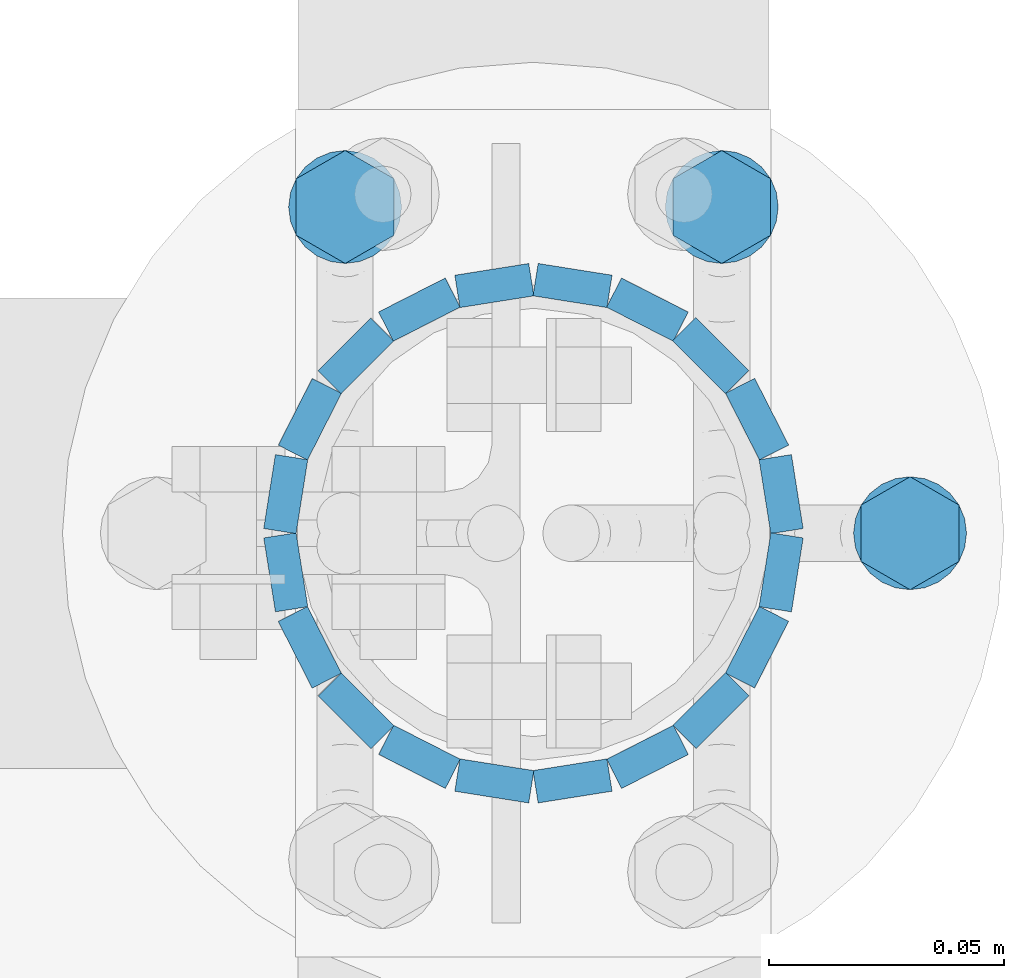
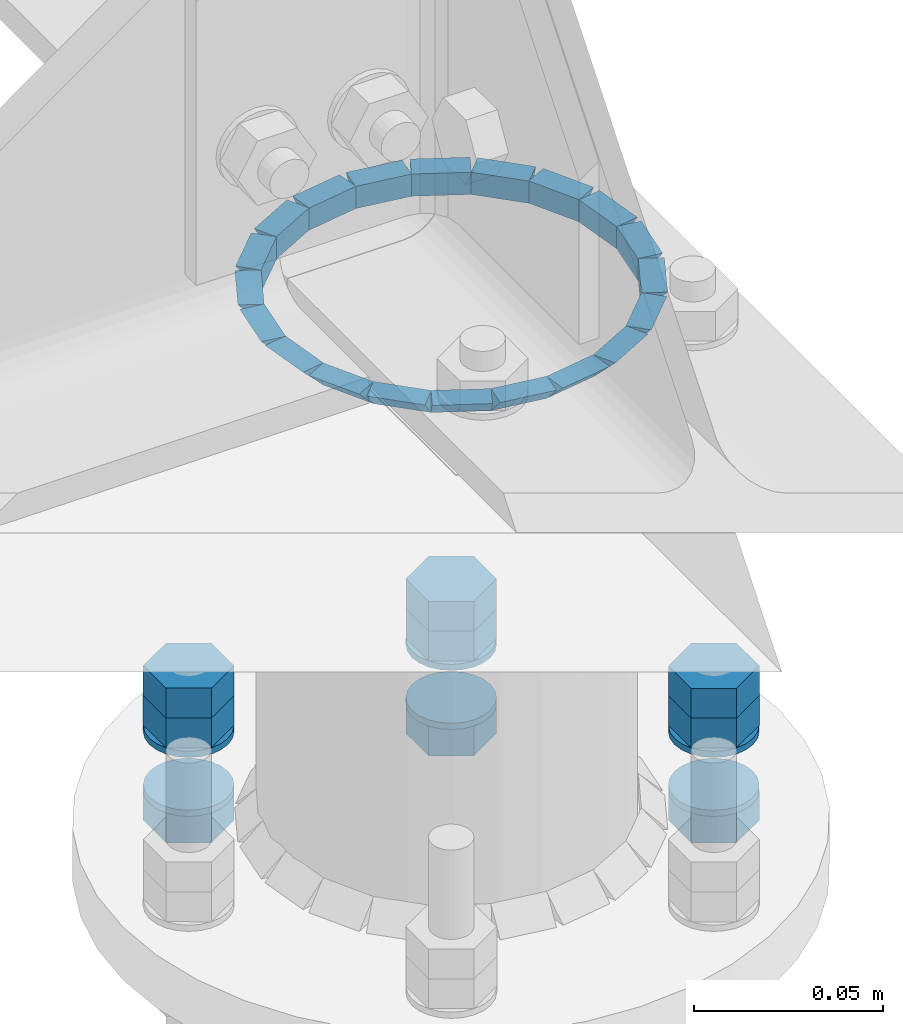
# One storey, part 69 of 84: 40 fasteners, 15 mechanical fasteners.
"""IFC4 building model written with IfcOpenShell, lengths in metres."""

from ifc_helpers import new_model, si_unit, frame, origin_with_axes, place, context, project, spatial, polyline, outline, extrude, type_object, element, save


model = new_model("IFC4")

# Units and contexts
model_context = context("Model", 3, precision=1e-05, world=origin_with_axes())
ifc_project = project(units=[si_unit("LENGTHUNIT", "METRE"), si_unit("AREAUNIT", "SQUARE_METRE"), si_unit("VOLUMEUNIT", "CUBIC_METRE"), si_unit("MASSUNIT", "GRAM", prefix="KILO"), si_unit("TIMEUNIT", "SECOND"), si_unit("PLANEANGLEUNIT", "RADIAN"), si_unit("SOLIDANGLEUNIT", "STERADIAN"), si_unit("THERMODYNAMICTEMPERATUREUNIT", "DEGREE_CELSIUS")], contexts=[model_context])

# Site, building, storey
placement_1 = place(None, origin_with_axes())
site = spatial("IfcSite", under=ifc_project, at=placement_1, Name="Italia", CompositionType="ELEMENT")
building = spatial("IfcBuilding", under=site, at=placement_1, Name="Tettoia", CompositionType="ELEMENT")
storey_placement = place(None, frame((0.0, 0.0, 4.199999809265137), z_axis=(0.0, 0.0, 1.0), x_axis=(1.0, 0.0, 0.0)))
storey = spatial("IfcBuildingStorey", under=building, at=storey_placement, Name="Storey 1", CompositionType="ELEMENT", Elevation=4.199999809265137)

# Mechanical fasteners
mechanical_fastener_type_1 = type_object("IfcMechanicalFastenerType", Name="Collegamento -013_0113", PredefinedType="BOLT")
placement_2 = place(placement_1, origin_with_axes())
mechanical_fastener_1_placement = place(placement_2, origin_with_axes())
element("IfcMechanicalFastener", 1, at=mechanical_fastener_1_placement, inside=storey, type_object=mechanical_fastener_type_1, Name="Collegamento -013_0113", NominalDiameter=0.0119991, context=model_context, shape_type="SweptSolid", body=[
    extrude(outline(polyline([(0.0, 0.0), (-0.0119991, 0.0), (-0.0179996, 0.0103922), (-0.0119991, 0.0207844), (0.0, 0.0207844), (0.00600052, 0.0103922), (0.0, 0.0)])), frame((11.3804, 13.956, 4.019), z_axis=(0.0, 0.0, 1.0), x_axis=(0.0, 1.0, 0.0)), (0.0, 0.0, 1.0), 0.00960016),
])
mechanical_fastener_type_2 = type_object("IfcMechanicalFastenerType", Name="Collegamento -013_0113", PredefinedType="BOLT")
mechanical_fastener_2_placement = place(placement_2, origin_with_axes())
element("IfcMechanicalFastener", 2, at=mechanical_fastener_2_placement, inside=storey, type_object=mechanical_fastener_type_2, Name="Collegamento -013_0113", NominalDiameter=0.0119991, context=model_context, shape_type="SweptSolid", body=[
    extrude(outline(polyline([(0.0, 0.0), (-0.0119991, 0.0), (-0.0179996, 0.0103922), (-0.0119991, 0.0207844), (0.0, 0.0207844), (0.00600052, 0.0103922), (0.0, 0.0)])), frame((11.3804, 13.956, 4.0286), z_axis=(0.0, 0.0, 1.0), x_axis=(0.0, 1.0, 0.0)), (0.0, 0.0, 1.0), 0.00959969),
])
mechanical_fastener_type_3 = type_object("IfcMechanicalFastenerType", Name="Collegamento -013_0113", PredefinedType="BOLT")
mechanical_fastener_3_placement = place(placement_2, origin_with_axes())
element("IfcMechanicalFastener", 3, at=mechanical_fastener_3_placement, inside=storey, type_object=mechanical_fastener_type_3, Name="Collegamento -013_0113", NominalDiameter=0.0119991, context=model_context, shape_type="SweptSolid", body=[
    extrude(outline(polyline([(0.0, 0.0), (-0.0119991, 0.0), (-0.0179996, 0.0103922), (-0.0119991, 0.0207844), (0.0, 0.0207844), (0.00600052, 0.0103922), (0.0, 0.0)])), frame((11.3804, 13.956, 3.9884), z_axis=(0.0, 0.0, 1.0), x_axis=(0.0, 1.0, 0.0)), (0.0, 0.0, 1.0), 0.00959992),
])
mechanical_fastener_type_4 = type_object("IfcMechanicalFastenerType", Name="Collegamento -013_0113", PredefinedType="BOLT")
mechanical_fastener_4_placement = place(placement_2, origin_with_axes())
element("IfcMechanicalFastener", 4, at=mechanical_fastener_4_placement, inside=storey, type_object=mechanical_fastener_type_4, Name="Collegamento -013_0113", NominalDiameter=0.024, context=model_context, shape_type="SweptSolid", body=[
    extrude(outline(polyline([(0.0, 0.0), (-0.000409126, -0.00310612), (-0.00160789, -0.00599957), (-0.00351524, -0.00848484), (-0.00600052, -0.0103922), (-0.00889397, -0.011591), (-0.0120001, -0.0120001), (-0.0151062, -0.011591), (-0.0179996, -0.0103922), (-0.0204849, -0.00848484), (-0.0223923, -0.00599957), (-0.023591, -0.00310612), (-0.0240002, 0.0), (-0.023591, 0.00310612), (-0.0223923, 0.00599957), (-0.0204849, 0.00848484), (-0.0179996, 0.0103922), (-0.0151062, 0.011591), (-0.0120001, 0.0120001), (-0.00889397, 0.011591), (-0.00600052, 0.0103922), (-0.00351524, 0.00848484), (-0.00160789, 0.00599957), (-0.000409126, 0.00310612), (0.0, 0.0)])), frame((11.37, 13.962, 4.017), z_axis=(0.0, 0.0, 1.0), x_axis=(0.0, 1.0, 0.0)), (0.0, 0.0, 1.0), 0.00199986),
])
mechanical_fastener_type_5 = type_object("IfcMechanicalFastenerType", Name="Collegamento -013_0113", PredefinedType="BOLT")
mechanical_fastener_5_placement = place(placement_2, origin_with_axes())
element("IfcMechanicalFastener", 5, at=mechanical_fastener_5_placement, inside=storey, type_object=mechanical_fastener_type_5, Name="Collegamento -013_0113", NominalDiameter=0.024, context=model_context, shape_type="SweptSolid", body=[
    extrude(outline(polyline([(0.0, 0.0), (-0.000409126, -0.00310612), (-0.00160789, -0.00599957), (-0.00351524, -0.00848484), (-0.00600052, -0.0103922), (-0.00889397, -0.011591), (-0.0120001, -0.0120001), (-0.0151062, -0.011591), (-0.0179996, -0.0103922), (-0.0204849, -0.00848484), (-0.0223923, -0.00599957), (-0.023591, -0.00310612), (-0.0240002, 0.0), (-0.023591, 0.00310612), (-0.0223923, 0.00599957), (-0.0204849, 0.00848484), (-0.0179996, 0.0103922), (-0.0151062, 0.011591), (-0.0120001, 0.0120001), (-0.00889397, 0.011591), (-0.00600052, 0.0103922), (-0.00351524, 0.00848484), (-0.00160789, 0.00599957), (-0.000409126, 0.00310612), (0.0, 0.0)])), frame((11.37, 13.962, 3.998), z_axis=(0.0, 0.0, 1.0), x_axis=(0.0, 1.0, 0.0)), (0.0, 0.0, 1.0), 0.00200009),
])
mechanical_fastener_type_6 = type_object("IfcMechanicalFastenerType", Name="Collegamento -013_0113", PredefinedType="BOLT")
mechanical_fastener_6_placement = place(placement_2, origin_with_axes())
element("IfcMechanicalFastener", 6, at=mechanical_fastener_6_placement, inside=storey, type_object=mechanical_fastener_type_6, Name="Collegamento -013_0113", NominalDiameter=0.0119997, context=model_context, shape_type="SweptSolid", body=[
    extrude(outline(polyline([(0.0, 0.0), (-0.0120001, 0.0), (-0.0179996, 0.0103922), (-0.0120001, 0.0207844), (0.0, 0.0207844), (0.00599957, 0.0103922), (0.0, 0.0)])), frame((11.3404, 14.0253, 4.019), z_axis=(0.0, 0.0, 1.0), x_axis=(0.0, 1.0, 0.0)), (0.0, 0.0, 1.0), 0.00960016),
])
mechanical_fastener_type_7 = type_object("IfcMechanicalFastenerType", Name="Collegamento -013_0113", PredefinedType="BOLT")
mechanical_fastener_7_placement = place(placement_2, origin_with_axes())
element("IfcMechanicalFastener", 7, at=mechanical_fastener_7_placement, inside=storey, type_object=mechanical_fastener_type_7, Name="Collegamento -013_0113", NominalDiameter=0.0119997, context=model_context, shape_type="SweptSolid", body=[
    extrude(outline(polyline([(0.0, 0.0), (-0.0120001, 0.0), (-0.0179996, 0.0103922), (-0.0120001, 0.0207844), (0.0, 0.0207844), (0.00599957, 0.0103922), (0.0, 0.0)])), frame((11.3404, 14.0253, 4.0286), z_axis=(0.0, 0.0, 1.0), x_axis=(0.0, 1.0, 0.0)), (0.0, 0.0, 1.0), 0.00959969),
])
mechanical_fastener_type_8 = type_object("IfcMechanicalFastenerType", Name="Collegamento -013_0113", PredefinedType="BOLT")
mechanical_fastener_8_placement = place(placement_2, origin_with_axes())
element("IfcMechanicalFastener", 8, at=mechanical_fastener_8_placement, inside=storey, type_object=mechanical_fastener_type_8, Name="Collegamento -013_0113", NominalDiameter=0.0119997, context=model_context, shape_type="SweptSolid", body=[
    extrude(outline(polyline([(0.0, 0.0), (-0.0120001, 0.0), (-0.0179996, 0.0103922), (-0.0120001, 0.0207844), (0.0, 0.0207844), (0.00599957, 0.0103922), (0.0, 0.0)])), frame((11.3404, 14.0253, 3.9884), z_axis=(0.0, 0.0, 1.0), x_axis=(0.0, 1.0, 0.0)), (0.0, 0.0, 1.0), 0.00959992),
])
mechanical_fastener_type_9 = type_object("IfcMechanicalFastenerType", Name="Collegamento -013_0113", PredefinedType="BOLT")
mechanical_fastener_9_placement = place(placement_2, origin_with_axes())
element("IfcMechanicalFastener", 9, at=mechanical_fastener_9_placement, inside=storey, type_object=mechanical_fastener_type_9, Name="Collegamento -013_0113", NominalDiameter=0.024, context=model_context, shape_type="SweptSolid", body=[
    extrude(outline(polyline([(0.0, 0.0), (-0.000409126, -0.00310612), (-0.00160789, -0.00599957), (-0.00351524, -0.00848484), (-0.00600052, -0.0103922), (-0.00889397, -0.011591), (-0.0120001, -0.0120001), (-0.0151062, -0.011591), (-0.0179996, -0.0103922), (-0.0204849, -0.00848484), (-0.0223923, -0.00599957), (-0.023591, -0.00310612), (-0.0240002, 0.0), (-0.023591, 0.00310612), (-0.0223923, 0.00599957), (-0.0204849, 0.00848484), (-0.0179996, 0.0103922), (-0.0151062, 0.011591), (-0.0120001, 0.0120001), (-0.00889397, 0.011591), (-0.00600052, 0.0103922), (-0.00351524, 0.00848484), (-0.00160789, 0.00599957), (-0.000409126, 0.00310612), (0.0, 0.0)])), frame((11.33, 14.0313, 4.017), z_axis=(0.0, 0.0, 1.0), x_axis=(0.0, 1.0, 0.0)), (0.0, 0.0, 1.0), 0.00199986),
])
mechanical_fastener_type_10 = type_object("IfcMechanicalFastenerType", Name="Collegamento -013_0113", PredefinedType="BOLT")
mechanical_fastener_10_placement = place(placement_2, origin_with_axes())
element("IfcMechanicalFastener", 10, at=mechanical_fastener_10_placement, inside=storey, type_object=mechanical_fastener_type_10, Name="Collegamento -013_0113", NominalDiameter=0.024, context=model_context, shape_type="SweptSolid", body=[
    extrude(outline(polyline([(0.0, 0.0), (-0.000409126, -0.00310612), (-0.00160789, -0.00599957), (-0.00351524, -0.00848484), (-0.00600052, -0.0103922), (-0.00889397, -0.011591), (-0.0120001, -0.0120001), (-0.0151062, -0.011591), (-0.0179996, -0.0103922), (-0.0204849, -0.00848484), (-0.0223923, -0.00599957), (-0.023591, -0.00310612), (-0.0240002, 0.0), (-0.023591, 0.00310612), (-0.0223923, 0.00599957), (-0.0204849, 0.00848484), (-0.0179996, 0.0103922), (-0.0151062, 0.011591), (-0.0120001, 0.0120001), (-0.00889397, 0.011591), (-0.00600052, 0.0103922), (-0.00351524, 0.00848484), (-0.00160789, 0.00599957), (-0.000409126, 0.00310612), (0.0, 0.0)])), frame((11.33, 14.0313, 3.998), z_axis=(0.0, 0.0, 1.0), x_axis=(0.0, 1.0, 0.0)), (0.0, 0.0, 1.0), 0.00200009),
])
mechanical_fastener_type_11 = type_object("IfcMechanicalFastenerType", Name="Collegamento -013_0113", PredefinedType="BOLT")
mechanical_fastener_11_placement = place(placement_2, origin_with_axes())
element("IfcMechanicalFastener", 11, at=mechanical_fastener_11_placement, inside=storey, type_object=mechanical_fastener_type_11, Name="Collegamento -013_0113", NominalDiameter=0.0119997, context=model_context, shape_type="SweptSolid", body=[
    extrude(outline(polyline([(0.0, 0.0), (-0.0120001, 0.0), (-0.0179996, 0.0103922), (-0.0120001, 0.0207844), (0.0, 0.0207844), (0.00599957, 0.0103922), (0.0, 0.0)])), frame((11.2604, 14.0253, 4.019), z_axis=(0.0, 0.0, 1.0), x_axis=(0.0, 1.0, 0.0)), (0.0, 0.0, 1.0), 0.00960016),
])
mechanical_fastener_type_12 = type_object("IfcMechanicalFastenerType", Name="Collegamento -013_0113", PredefinedType="BOLT")
mechanical_fastener_12_placement = place(placement_2, origin_with_axes())
element("IfcMechanicalFastener", 12, at=mechanical_fastener_12_placement, inside=storey, type_object=mechanical_fastener_type_12, Name="Collegamento -013_0113", NominalDiameter=0.0119997, context=model_context, shape_type="SweptSolid", body=[
    extrude(outline(polyline([(0.0, 0.0), (-0.0120001, 0.0), (-0.0179996, 0.0103922), (-0.0120001, 0.0207844), (0.0, 0.0207844), (0.00599957, 0.0103922), (0.0, 0.0)])), frame((11.2604, 14.0253, 4.0286), z_axis=(0.0, 0.0, 1.0), x_axis=(0.0, 1.0, 0.0)), (0.0, 0.0, 1.0), 0.00959969),
])
mechanical_fastener_type_13 = type_object("IfcMechanicalFastenerType", Name="Collegamento -013_0113", PredefinedType="BOLT")
mechanical_fastener_13_placement = place(placement_2, origin_with_axes())
element("IfcMechanicalFastener", 13, at=mechanical_fastener_13_placement, inside=storey, type_object=mechanical_fastener_type_13, Name="Collegamento -013_0113", NominalDiameter=0.0119997, context=model_context, shape_type="SweptSolid", body=[
    extrude(outline(polyline([(0.0, 0.0), (-0.0120001, 0.0), (-0.0179996, 0.0103922), (-0.0120001, 0.0207844), (0.0, 0.0207844), (0.00599957, 0.0103922), (0.0, 0.0)])), frame((11.2604, 14.0253, 3.9884), z_axis=(0.0, 0.0, 1.0), x_axis=(0.0, 1.0, 0.0)), (0.0, 0.0, 1.0), 0.00959992),
])
mechanical_fastener_type_14 = type_object("IfcMechanicalFastenerType", Name="Collegamento -013_0113", PredefinedType="BOLT")
mechanical_fastener_14_placement = place(placement_2, origin_with_axes())
element("IfcMechanicalFastener", 14, at=mechanical_fastener_14_placement, inside=storey, type_object=mechanical_fastener_type_14, Name="Collegamento -013_0113", NominalDiameter=0.024, context=model_context, shape_type="SweptSolid", body=[
    extrude(outline(polyline([(0.0, 0.0), (-0.000409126, -0.00310612), (-0.00160789, -0.00599957), (-0.00351524, -0.00848484), (-0.00600052, -0.0103922), (-0.00889397, -0.011591), (-0.0120001, -0.0120001), (-0.0151062, -0.011591), (-0.0179996, -0.0103922), (-0.0204849, -0.00848484), (-0.0223923, -0.00599957), (-0.023591, -0.00310612), (-0.0240002, 0.0), (-0.023591, 0.00310612), (-0.0223923, 0.00599957), (-0.0204849, 0.00848484), (-0.0179996, 0.0103922), (-0.0151062, 0.011591), (-0.0120001, 0.0120001), (-0.00889397, 0.011591), (-0.00600052, 0.0103922), (-0.00351524, 0.00848484), (-0.00160789, 0.00599957), (-0.000409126, 0.00310612), (0.0, 0.0)])), frame((11.25, 14.0313, 4.017), z_axis=(0.0, 0.0, 1.0), x_axis=(0.0, 1.0, 0.0)), (0.0, 0.0, 1.0), 0.00199986),
])
mechanical_fastener_type_15 = type_object("IfcMechanicalFastenerType", Name="Collegamento -013_0113", PredefinedType="BOLT")
mechanical_fastener_15_placement = place(placement_2, origin_with_axes())
element("IfcMechanicalFastener", 15, at=mechanical_fastener_15_placement, inside=storey, type_object=mechanical_fastener_type_15, Name="Collegamento -013_0113", NominalDiameter=0.024, context=model_context, shape_type="SweptSolid", body=[
    extrude(outline(polyline([(0.0, 0.0), (-0.000409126, -0.00310612), (-0.00160789, -0.00599957), (-0.00351524, -0.00848484), (-0.00600052, -0.0103922), (-0.00889397, -0.011591), (-0.0120001, -0.0120001), (-0.0151062, -0.011591), (-0.0179996, -0.0103922), (-0.0204849, -0.00848484), (-0.0223923, -0.00599957), (-0.023591, -0.00310612), (-0.0240002, 0.0), (-0.023591, 0.00310612), (-0.0223923, 0.00599957), (-0.0204849, 0.00848484), (-0.0179996, 0.0103922), (-0.0151062, 0.011591), (-0.0120001, 0.0120001), (-0.00889397, 0.011591), (-0.00600052, 0.0103922), (-0.00351524, 0.00848484), (-0.00160789, 0.00599957), (-0.000409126, 0.00310612), (0.0, 0.0)])), frame((11.25, 14.0313, 3.998), z_axis=(0.0, 0.0, 1.0), x_axis=(0.0, 1.0, 0.0)), (0.0, 0.0, 1.0), 0.00200009),
])

# Fasteners
fastener_type_1 = type_object("IfcFastenerType", Name="Collegamento 0113_-013", PredefinedType="WELD")
fastener_1_placement = place(placement_2, origin_with_axes())
element("IfcFastener", 16, at=fastener_1_placement, inside=storey, type_object=fastener_type_1, Name="Collegamento 0113_-013", context=model_context, shape_type="SweptSolid", body=[
    extrude(outline(polyline([(0.0, 0.0), (-0.00695801, -0.00717306), (-0.00695801, 0.0), (0.0, 0.0)])), frame((11.291, 14.0073, 4.19005), z_axis=(0.987678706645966, -0.156495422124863, 0.0), x_axis=(0.156495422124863, 0.987678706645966, 0.0)), (0.0, 0.0, 1.0), 0.0158991),
])
fastener_type_2 = type_object("IfcFastenerType", Name="Collegamento 0113_-013", PredefinedType="WELD")
fastener_2_placement = place(placement_2, origin_with_axes())
element("IfcFastener", 17, at=fastener_2_placement, inside=storey, type_object=fastener_type_2, Name="Collegamento 0113_-013", context=model_context, shape_type="SweptSolid", body=[
    extrude(outline(polyline([(0.0, 0.0), (-0.00695801, -0.00717306), (-0.00695801, 0.0), (0.0, 0.0)])), frame((11.3087, 14.0042, 4.19005), z_axis=(0.891030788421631, -0.453942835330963, 0.0), x_axis=(0.453942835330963, 0.891030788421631, 0.0)), (0.0, 0.0, 1.0), 0.0158994),
])
fastener_type_3 = type_object("IfcFastenerType", Name="Collegamento 0113_-013", PredefinedType="WELD")
fastener_3_placement = place(placement_2, origin_with_axes())
element("IfcFastener", 18, at=fastener_3_placement, inside=storey, type_object=fastener_type_3, Name="Collegamento 0113_-013", context=model_context, shape_type="SweptSolid", body=[
    extrude(outline(polyline([(0.0, 0.0), (-0.00695801, -0.00717306), (-0.00695801, 0.0), (0.0, 0.0)])), frame((11.3245, 13.9958, 4.19005), z_axis=(0.70710676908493, -0.70710676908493, 0.0), x_axis=(0.70710676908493, 0.70710676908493, 0.0)), (0.0, 0.0, 1.0), 0.0158998),
])
fastener_type_4 = type_object("IfcFastenerType", Name="Collegamento 0113_-013", PredefinedType="WELD")
fastener_4_placement = place(placement_2, origin_with_axes())
element("IfcFastener", 19, at=fastener_4_placement, inside=storey, type_object=fastener_type_4, Name="Collegamento 0113_-013", context=model_context, shape_type="SweptSolid", body=[
    extrude(outline(polyline([(0.0, 0.0), (-0.00695801, -0.00717306), (-0.00695801, 0.0), (0.0, 0.0)])), frame((11.337, 13.9829, 4.19005), z_axis=(0.453942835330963, -0.891030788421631, 0.0), x_axis=(0.891030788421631, 0.453942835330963, 0.0)), (0.0, 0.0, 1.0), 0.0158994),
])
fastener_type_5 = type_object("IfcFastenerType", Name="Collegamento 0113_-013", PredefinedType="WELD")
fastener_5_placement = place(placement_2, origin_with_axes())
element("IfcFastener", 20, at=fastener_5_placement, inside=storey, type_object=fastener_type_5, Name="Collegamento 0113_-013", context=model_context, shape_type="SweptSolid", body=[
    extrude(outline(polyline([(0.0, 0.0), (-0.00695705, -0.00717306), (-0.00695705, 0.0), (0.0, 0.0)])), frame((11.3448, 13.9667, 4.19005), z_axis=(0.156495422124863, -0.987678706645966, 0.0), x_axis=(0.987678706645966, 0.156495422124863, 0.0)), (0.0, 0.0, 1.0), 0.0158991),
])
fastener_type_6 = type_object("IfcFastenerType", Name="Collegamento 0113_-013", PredefinedType="WELD")
fastener_6_placement = place(placement_2, origin_with_axes())
element("IfcFastener", 21, at=fastener_6_placement, inside=storey, type_object=fastener_type_6, Name="Collegamento 0113_-013", context=model_context, shape_type="SweptSolid", body=[
    extrude(outline(polyline([(0.0, 0.0), (-0.00695992, -0.00717306), (-0.00695992, 0.0), (0.0, 0.0)])), frame((11.3473, 13.949, 4.19005), z_axis=(-0.156495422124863, -0.987678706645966, 0.0), x_axis=(0.987678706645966, -0.156495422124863, 0.0)), (0.0, 0.0, 1.0), 0.0158991),
])
fastener_type_7 = type_object("IfcFastenerType", Name="Collegamento 0113_-013", PredefinedType="WELD")
fastener_7_placement = place(placement_2, origin_with_axes())
element("IfcFastener", 22, at=fastener_7_placement, inside=storey, type_object=fastener_type_7, Name="Collegamento 0113_-013", context=model_context, shape_type="SweptSolid", body=[
    extrude(outline(polyline([(0.0, 0.0), (-0.00695896, -0.00717306), (-0.00695896, 0.0), (0.0, 0.0)])), frame((11.3442, 13.9313, 4.19005), z_axis=(-0.453942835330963, -0.891030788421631, 0.0), x_axis=(0.891030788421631, -0.453942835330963, 0.0)), (0.0, 0.0, 1.0), 0.0158994),
])
fastener_type_8 = type_object("IfcFastenerType", Name="Collegamento 0113_-013", PredefinedType="WELD")
fastener_8_placement = place(placement_2, origin_with_axes())
element("IfcFastener", 23, at=fastener_8_placement, inside=storey, type_object=fastener_type_8, Name="Collegamento 0113_-013", context=model_context, shape_type="SweptSolid", body=[
    extrude(outline(polyline([(0.0, 0.0), (-0.00695801, -0.00717306), (-0.00695801, 0.0), (0.0, 0.0)])), frame((11.3358, 13.9155, 4.19005), z_axis=(-0.70710676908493, -0.70710676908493, 0.0), x_axis=(0.70710676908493, -0.70710676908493, 0.0)), (0.0, 0.0, 1.0), 0.0158998),
])
fastener_type_9 = type_object("IfcFastenerType", Name="Collegamento 0113_-013", PredefinedType="WELD")
fastener_9_placement = place(placement_2, origin_with_axes())
element("IfcFastener", 24, at=fastener_9_placement, inside=storey, type_object=fastener_type_9, Name="Collegamento 0113_-013", context=model_context, shape_type="SweptSolid", body=[
    extrude(outline(polyline([(0.0, 0.0), (-0.00695944, -0.00717306), (-0.00695944, 0.0), (0.0, 0.0)])), frame((11.3229, 13.903, 4.19005), z_axis=(-0.891030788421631, -0.453942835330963, 0.0), x_axis=(0.453942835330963, -0.891030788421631, 0.0)), (0.0, 0.0, 1.0), 0.0158994),
])
fastener_type_10 = type_object("IfcFastenerType", Name="Collegamento 0113_-013", PredefinedType="WELD")
fastener_10_placement = place(placement_2, origin_with_axes())
element("IfcFastener", 25, at=fastener_10_placement, inside=storey, type_object=fastener_type_10, Name="Collegamento 0113_-013", context=model_context, shape_type="SweptSolid", body=[
    extrude(outline(polyline([(0.0, 0.0), (-0.00695705, -0.00717306), (-0.00695705, 0.0), (0.0, 0.0)])), frame((11.3067, 13.8952, 4.19005), z_axis=(-0.987678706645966, -0.156495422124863, 0.0), x_axis=(0.156495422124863, -0.987678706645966, 0.0)), (0.0, 0.0, 1.0), 0.0158991),
])
fastener_type_11 = type_object("IfcFastenerType", Name="Collegamento 0113_-013", PredefinedType="WELD")
fastener_11_placement = place(placement_2, origin_with_axes())
element("IfcFastener", 26, at=fastener_11_placement, inside=storey, type_object=fastener_type_11, Name="Collegamento 0113_-013", context=model_context, shape_type="SweptSolid", body=[
    extrude(outline(polyline([(0.0, 0.0), (-0.00695896, -0.00717306), (-0.00695896, 0.0), (0.0, 0.0)])), frame((11.289, 13.8927, 4.19005), z_axis=(-0.987678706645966, 0.156495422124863, 0.0), x_axis=(-0.156495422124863, -0.987678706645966, 0.0)), (0.0, 0.0, 1.0), 0.0158991),
])
fastener_type_12 = type_object("IfcFastenerType", Name="Collegamento 0113_-013", PredefinedType="WELD")
fastener_12_placement = place(placement_2, origin_with_axes())
element("IfcFastener", 27, at=fastener_12_placement, inside=storey, type_object=fastener_type_12, Name="Collegamento 0113_-013", context=model_context, shape_type="SweptSolid", body=[
    extrude(outline(polyline([(0.0, 0.0), (-0.00695801, -0.00717306), (-0.00695801, 0.0), (0.0, 0.0)])), frame((11.2713, 13.8958, 4.19005), z_axis=(-0.891030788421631, 0.453942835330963, 0.0), x_axis=(-0.453942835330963, -0.891030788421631, 0.0)), (0.0, 0.0, 1.0), 0.0158994),
])
fastener_type_13 = type_object("IfcFastenerType", Name="Collegamento 0113_-013", PredefinedType="WELD")
fastener_13_placement = place(placement_2, origin_with_axes())
element("IfcFastener", 28, at=fastener_13_placement, inside=storey, type_object=fastener_type_13, Name="Collegamento 0113_-013", context=model_context, shape_type="SweptSolid", body=[
    extrude(outline(polyline([(0.0, 0.0), (-0.00695801, -0.00717306), (-0.00695801, 0.0), (0.0, 0.0)])), frame((11.2555, 13.9042, 4.19005), z_axis=(-0.70710676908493, 0.70710676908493, 0.0), x_axis=(-0.70710676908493, -0.70710676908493, 0.0)), (0.0, 0.0, 1.0), 0.0158998),
])
fastener_type_14 = type_object("IfcFastenerType", Name="Collegamento 0113_-013", PredefinedType="WELD")
fastener_14_placement = place(placement_2, origin_with_axes())
element("IfcFastener", 29, at=fastener_14_placement, inside=storey, type_object=fastener_type_14, Name="Collegamento 0113_-013", context=model_context, shape_type="SweptSolid", body=[
    extrude(outline(polyline([(0.0, 0.0), (-0.00695992, -0.00717306), (-0.00695992, 0.0), (0.0, 0.0)])), frame((11.243, 13.9171, 4.19005), z_axis=(-0.453942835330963, 0.891030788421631, 0.0), x_axis=(-0.891030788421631, -0.453942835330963, 0.0)), (0.0, 0.0, 1.0), 0.0158994),
])
fastener_type_15 = type_object("IfcFastenerType", Name="Collegamento 0113_-013", PredefinedType="WELD")
fastener_15_placement = place(placement_2, origin_with_axes())
element("IfcFastener", 30, at=fastener_15_placement, inside=storey, type_object=fastener_type_15, Name="Collegamento 0113_-013", context=model_context, shape_type="SweptSolid", body=[
    extrude(outline(polyline([(0.0, 0.0), (-0.00695705, -0.00717306), (-0.00695705, 0.0), (0.0, 0.0)])), frame((11.2352, 13.9333, 4.19005), z_axis=(-0.156495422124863, 0.987678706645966, 0.0), x_axis=(-0.987678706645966, -0.156495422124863, 0.0)), (0.0, 0.0, 1.0), 0.0158991),
])
fastener_type_16 = type_object("IfcFastenerType", Name="Collegamento 0113_-013", PredefinedType="WELD")
fastener_16_placement = place(placement_2, origin_with_axes())
element("IfcFastener", 31, at=fastener_16_placement, inside=storey, type_object=fastener_type_16, Name="Collegamento 0113_-013", context=model_context, shape_type="SweptSolid", body=[
    extrude(outline(polyline([(0.0, 0.0), (-0.00695801, -0.00717306), (-0.00695801, 0.0), (0.0, 0.0)])), frame((11.2327, 13.951, 4.19005), z_axis=(0.156495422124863, 0.987678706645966, 0.0), x_axis=(-0.987678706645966, 0.156495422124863, 0.0)), (0.0, 0.0, 1.0), 0.0158991),
])
fastener_type_17 = type_object("IfcFastenerType", Name="Collegamento 0113_-013", PredefinedType="WELD")
fastener_17_placement = place(placement_2, origin_with_axes())
element("IfcFastener", 32, at=fastener_17_placement, inside=storey, type_object=fastener_type_17, Name="Collegamento 0113_-013", context=model_context, shape_type="SweptSolid", body=[
    extrude(outline(polyline([(0.0, 0.0), (-0.00695896, -0.00717306), (-0.00695896, 0.0), (0.0, 0.0)])), frame((11.2358, 13.9687, 4.19005), z_axis=(0.453942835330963, 0.891030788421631, 0.0), x_axis=(-0.891030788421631, 0.453942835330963, 0.0)), (0.0, 0.0, 1.0), 0.0158994),
])
fastener_type_18 = type_object("IfcFastenerType", Name="Collegamento 0113_-013", PredefinedType="WELD")
fastener_18_placement = place(placement_2, origin_with_axes())
element("IfcFastener", 33, at=fastener_18_placement, inside=storey, type_object=fastener_type_18, Name="Collegamento 0113_-013", context=model_context, shape_type="SweptSolid", body=[
    extrude(outline(polyline([(0.0, 0.0), (-0.00695801, -0.00717306), (-0.00695801, 0.0), (0.0, 0.0)])), frame((11.2442, 13.9845, 4.19005), z_axis=(0.70710676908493, 0.70710676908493, 0.0), x_axis=(-0.70710676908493, 0.70710676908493, 0.0)), (0.0, 0.0, 1.0), 0.0158998),
])
fastener_type_19 = type_object("IfcFastenerType", Name="Collegamento 0113_-013", PredefinedType="WELD")
fastener_19_placement = place(placement_2, origin_with_axes())
element("IfcFastener", 34, at=fastener_19_placement, inside=storey, type_object=fastener_type_19, Name="Collegamento 0113_-013", context=model_context, shape_type="SweptSolid", body=[
    extrude(outline(polyline([(0.0, 0.0), (-0.00695848, -0.00717306), (-0.00695848, 0.0), (0.0, 0.0)])), frame((11.2571, 13.997, 4.19005), z_axis=(0.891030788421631, 0.453942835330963, 0.0), x_axis=(-0.453942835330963, 0.891030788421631, 0.0)), (0.0, 0.0, 1.0), 0.0158994),
])
fastener_type_20 = type_object("IfcFastenerType", Name="Collegamento 0113_-013", PredefinedType="WELD")
fastener_20_placement = place(placement_2, origin_with_axes())
element("IfcFastener", 35, at=fastener_20_placement, inside=storey, type_object=fastener_type_20, Name="Collegamento 0113_-013", context=model_context, shape_type="SweptSolid", body=[
    extrude(outline(polyline([(0.0, 0.0), (-0.00695705, -0.00717306), (-0.00695705, 0.0), (0.0, 0.0)])), frame((11.2733, 14.0048, 4.19005), z_axis=(0.987678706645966, 0.156495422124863, 0.0), x_axis=(-0.156495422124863, 0.987678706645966, 0.0)), (0.0, 0.0, 1.0), 0.0158991),
])
fastener_type_21 = type_object("IfcFastenerType", Name="Collegamento 0113_-013", PredefinedType="WELD")
fastener_21_placement = place(placement_2, origin_with_axes())
element("IfcFastener", 36, at=fastener_21_placement, inside=storey, type_object=fastener_type_21, Name="Collegamento 0113_-013", context=model_context, shape_type="SweptSolid", body=[
    extrude(outline(polyline([(0.0, 0.0), (-0.00695801, -0.00717306), (-0.00695801, 0.0), (0.0, 0.0)])), frame((11.291, 14.0073, 4.19005), z_axis=(0.987678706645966, -0.156495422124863, 0.0), x_axis=(0.156495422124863, 0.987678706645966, 0.0)), (0.0, 0.0, 1.0), 0.0158991),
])
fastener_type_22 = type_object("IfcFastenerType", Name="Collegamento 0113_-013", PredefinedType="WELD")
fastener_22_placement = place(placement_2, origin_with_axes())
element("IfcFastener", 37, at=fastener_22_placement, inside=storey, type_object=fastener_type_22, Name="Collegamento 0113_-013", context=model_context, shape_type="SweptSolid", body=[
    extrude(outline(polyline([(0.0, 0.0), (-0.00695801, -0.00717306), (-0.00695801, 0.0), (0.0, 0.0)])), frame((11.3087, 14.0042, 4.19005), z_axis=(0.891030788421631, -0.453942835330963, 0.0), x_axis=(0.453942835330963, 0.891030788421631, 0.0)), (0.0, 0.0, 1.0), 0.0158994),
])
fastener_type_23 = type_object("IfcFastenerType", Name="Collegamento 0113_-013", PredefinedType="WELD")
fastener_23_placement = place(placement_2, origin_with_axes())
element("IfcFastener", 38, at=fastener_23_placement, inside=storey, type_object=fastener_type_23, Name="Collegamento 0113_-013", context=model_context, shape_type="SweptSolid", body=[
    extrude(outline(polyline([(0.0, 0.0), (-0.00695801, -0.00717306), (-0.00695801, 0.0), (0.0, 0.0)])), frame((11.3245, 13.9958, 4.19005), z_axis=(0.70710676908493, -0.70710676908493, 0.0), x_axis=(0.70710676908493, 0.70710676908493, 0.0)), (0.0, 0.0, 1.0), 0.0158998),
])
fastener_type_24 = type_object("IfcFastenerType", Name="Collegamento 0113_-013", PredefinedType="WELD")
fastener_24_placement = place(placement_2, origin_with_axes())
element("IfcFastener", 39, at=fastener_24_placement, inside=storey, type_object=fastener_type_24, Name="Collegamento 0113_-013", context=model_context, shape_type="SweptSolid", body=[
    extrude(outline(polyline([(0.0, 0.0), (-0.00695801, -0.00717306), (-0.00695801, 0.0), (0.0, 0.0)])), frame((11.337, 13.9829, 4.19005), z_axis=(0.453942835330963, -0.891030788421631, 0.0), x_axis=(0.891030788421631, 0.453942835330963, 0.0)), (0.0, 0.0, 1.0), 0.0158994),
])
fastener_type_25 = type_object("IfcFastenerType", Name="Collegamento 0113_-013", PredefinedType="WELD")
fastener_25_placement = place(placement_2, origin_with_axes())
element("IfcFastener", 40, at=fastener_25_placement, inside=storey, type_object=fastener_type_25, Name="Collegamento 0113_-013", context=model_context, shape_type="SweptSolid", body=[
    extrude(outline(polyline([(0.0, 0.0), (-0.00695705, -0.00717306), (-0.00695705, 0.0), (0.0, 0.0)])), frame((11.3448, 13.9667, 4.19005), z_axis=(0.156495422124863, -0.987678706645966, 0.0), x_axis=(0.987678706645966, 0.156495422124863, 0.0)), (0.0, 0.0, 1.0), 0.0158991),
])
fastener_type_26 = type_object("IfcFastenerType", Name="Collegamento 0113_-013", PredefinedType="WELD")
fastener_26_placement = place(placement_2, origin_with_axes())
element("IfcFastener", 41, at=fastener_26_placement, inside=storey, type_object=fastener_type_26, Name="Collegamento 0113_-013", context=model_context, shape_type="SweptSolid", body=[
    extrude(outline(polyline([(0.0, 0.0), (-0.00695992, -0.00717306), (-0.00695992, 0.0), (0.0, 0.0)])), frame((11.3473, 13.949, 4.19005), z_axis=(-0.156495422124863, -0.987678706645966, 0.0), x_axis=(0.987678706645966, -0.156495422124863, 0.0)), (0.0, 0.0, 1.0), 0.0158991),
])
fastener_type_27 = type_object("IfcFastenerType", Name="Collegamento 0113_-013", PredefinedType="WELD")
fastener_27_placement = place(placement_2, origin_with_axes())
element("IfcFastener", 42, at=fastener_27_placement, inside=storey, type_object=fastener_type_27, Name="Collegamento 0113_-013", context=model_context, shape_type="SweptSolid", body=[
    extrude(outline(polyline([(0.0, 0.0), (-0.00695896, -0.00717306), (-0.00695896, 0.0), (0.0, 0.0)])), frame((11.3442, 13.9313, 4.19005), z_axis=(-0.453942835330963, -0.891030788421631, 0.0), x_axis=(0.891030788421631, -0.453942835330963, 0.0)), (0.0, 0.0, 1.0), 0.0158994),
])
fastener_type_28 = type_object("IfcFastenerType", Name="Collegamento 0113_-013", PredefinedType="WELD")
fastener_28_placement = place(placement_2, origin_with_axes())
element("IfcFastener", 43, at=fastener_28_placement, inside=storey, type_object=fastener_type_28, Name="Collegamento 0113_-013", context=model_context, shape_type="SweptSolid", body=[
    extrude(outline(polyline([(0.0, 0.0), (-0.00695801, -0.00717306), (-0.00695801, 0.0), (0.0, 0.0)])), frame((11.3358, 13.9155, 4.19005), z_axis=(-0.70710676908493, -0.70710676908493, 0.0), x_axis=(0.70710676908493, -0.70710676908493, 0.0)), (0.0, 0.0, 1.0), 0.0158998),
])
fastener_type_29 = type_object("IfcFastenerType", Name="Collegamento 0113_-013", PredefinedType="WELD")
fastener_29_placement = place(placement_2, origin_with_axes())
element("IfcFastener", 44, at=fastener_29_placement, inside=storey, type_object=fastener_type_29, Name="Collegamento 0113_-013", context=model_context, shape_type="SweptSolid", body=[
    extrude(outline(polyline([(0.0, 0.0), (-0.00695944, -0.00717306), (-0.00695944, 0.0), (0.0, 0.0)])), frame((11.3229, 13.903, 4.19005), z_axis=(-0.891030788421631, -0.453942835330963, 0.0), x_axis=(0.453942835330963, -0.891030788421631, 0.0)), (0.0, 0.0, 1.0), 0.0158994),
])
fastener_type_30 = type_object("IfcFastenerType", Name="Collegamento 0113_-013", PredefinedType="WELD")
fastener_30_placement = place(placement_2, origin_with_axes())
element("IfcFastener", 45, at=fastener_30_placement, inside=storey, type_object=fastener_type_30, Name="Collegamento 0113_-013", context=model_context, shape_type="SweptSolid", body=[
    extrude(outline(polyline([(0.0, 0.0), (-0.00695705, -0.00717306), (-0.00695705, 0.0), (0.0, 0.0)])), frame((11.3067, 13.8952, 4.19005), z_axis=(-0.987678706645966, -0.156495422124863, 0.0), x_axis=(0.156495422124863, -0.987678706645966, 0.0)), (0.0, 0.0, 1.0), 0.0158991),
])
fastener_type_31 = type_object("IfcFastenerType", Name="Collegamento 0113_-013", PredefinedType="WELD")
fastener_31_placement = place(placement_2, origin_with_axes())
element("IfcFastener", 46, at=fastener_31_placement, inside=storey, type_object=fastener_type_31, Name="Collegamento 0113_-013", context=model_context, shape_type="SweptSolid", body=[
    extrude(outline(polyline([(0.0, 0.0), (-0.00695896, -0.00717306), (-0.00695896, 0.0), (0.0, 0.0)])), frame((11.289, 13.8927, 4.19005), z_axis=(-0.987678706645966, 0.156495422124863, 0.0), x_axis=(-0.156495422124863, -0.987678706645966, 0.0)), (0.0, 0.0, 1.0), 0.0158991),
])
fastener_type_32 = type_object("IfcFastenerType", Name="Collegamento 0113_-013", PredefinedType="WELD")
fastener_32_placement = place(placement_2, origin_with_axes())
element("IfcFastener", 47, at=fastener_32_placement, inside=storey, type_object=fastener_type_32, Name="Collegamento 0113_-013", context=model_context, shape_type="SweptSolid", body=[
    extrude(outline(polyline([(0.0, 0.0), (-0.00695801, -0.00717306), (-0.00695801, 0.0), (0.0, 0.0)])), frame((11.2713, 13.8958, 4.19005), z_axis=(-0.891030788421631, 0.453942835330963, 0.0), x_axis=(-0.453942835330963, -0.891030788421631, 0.0)), (0.0, 0.0, 1.0), 0.0158994),
])
fastener_type_33 = type_object("IfcFastenerType", Name="Collegamento 0113_-013", PredefinedType="WELD")
fastener_33_placement = place(placement_2, origin_with_axes())
element("IfcFastener", 48, at=fastener_33_placement, inside=storey, type_object=fastener_type_33, Name="Collegamento 0113_-013", context=model_context, shape_type="SweptSolid", body=[
    extrude(outline(polyline([(0.0, 0.0), (-0.00695801, -0.00717306), (-0.00695801, 0.0), (0.0, 0.0)])), frame((11.2555, 13.9042, 4.19005), z_axis=(-0.70710676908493, 0.70710676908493, 0.0), x_axis=(-0.70710676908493, -0.70710676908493, 0.0)), (0.0, 0.0, 1.0), 0.0158998),
])
fastener_type_34 = type_object("IfcFastenerType", Name="Collegamento 0113_-013", PredefinedType="WELD")
fastener_34_placement = place(placement_2, origin_with_axes())
element("IfcFastener", 49, at=fastener_34_placement, inside=storey, type_object=fastener_type_34, Name="Collegamento 0113_-013", context=model_context, shape_type="SweptSolid", body=[
    extrude(outline(polyline([(0.0, 0.0), (-0.00695992, -0.00717306), (-0.00695992, 0.0), (0.0, 0.0)])), frame((11.243, 13.9171, 4.19005), z_axis=(-0.453942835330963, 0.891030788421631, 0.0), x_axis=(-0.891030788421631, -0.453942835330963, 0.0)), (0.0, 0.0, 1.0), 0.0158994),
])
fastener_type_35 = type_object("IfcFastenerType", Name="Collegamento 0113_-013", PredefinedType="WELD")
fastener_35_placement = place(placement_2, origin_with_axes())
element("IfcFastener", 50, at=fastener_35_placement, inside=storey, type_object=fastener_type_35, Name="Collegamento 0113_-013", context=model_context, shape_type="SweptSolid", body=[
    extrude(outline(polyline([(0.0, 0.0), (-0.00695705, -0.00717306), (-0.00695705, 0.0), (0.0, 0.0)])), frame((11.2352, 13.9333, 4.19005), z_axis=(-0.156495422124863, 0.987678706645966, 0.0), x_axis=(-0.987678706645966, -0.156495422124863, 0.0)), (0.0, 0.0, 1.0), 0.0158991),
])
fastener_type_36 = type_object("IfcFastenerType", Name="Collegamento 0113_-013", PredefinedType="WELD")
fastener_36_placement = place(placement_2, origin_with_axes())
element("IfcFastener", 51, at=fastener_36_placement, inside=storey, type_object=fastener_type_36, Name="Collegamento 0113_-013", context=model_context, shape_type="SweptSolid", body=[
    extrude(outline(polyline([(0.0, 0.0), (-0.00695801, -0.00717306), (-0.00695801, 0.0), (0.0, 0.0)])), frame((11.2327, 13.951, 4.19005), z_axis=(0.156495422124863, 0.987678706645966, 0.0), x_axis=(-0.987678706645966, 0.156495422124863, 0.0)), (0.0, 0.0, 1.0), 0.0158991),
])
fastener_type_37 = type_object("IfcFastenerType", Name="Collegamento 0113_-013", PredefinedType="WELD")
fastener_37_placement = place(placement_2, origin_with_axes())
element("IfcFastener", 52, at=fastener_37_placement, inside=storey, type_object=fastener_type_37, Name="Collegamento 0113_-013", context=model_context, shape_type="SweptSolid", body=[
    extrude(outline(polyline([(0.0, 0.0), (-0.00695896, -0.00717306), (-0.00695896, 0.0), (0.0, 0.0)])), frame((11.2358, 13.9687, 4.19005), z_axis=(0.453942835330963, 0.891030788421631, 0.0), x_axis=(-0.891030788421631, 0.453942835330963, 0.0)), (0.0, 0.0, 1.0), 0.0158994),
])
fastener_type_38 = type_object("IfcFastenerType", Name="Collegamento 0113_-013", PredefinedType="WELD")
fastener_38_placement = place(placement_2, origin_with_axes())
element("IfcFastener", 53, at=fastener_38_placement, inside=storey, type_object=fastener_type_38, Name="Collegamento 0113_-013", context=model_context, shape_type="SweptSolid", body=[
    extrude(outline(polyline([(0.0, 0.0), (-0.00695801, -0.00717306), (-0.00695801, 0.0), (0.0, 0.0)])), frame((11.2442, 13.9845, 4.19005), z_axis=(0.70710676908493, 0.70710676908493, 0.0), x_axis=(-0.70710676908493, 0.70710676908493, 0.0)), (0.0, 0.0, 1.0), 0.0158998),
])
fastener_type_39 = type_object("IfcFastenerType", Name="Collegamento 0113_-013", PredefinedType="WELD")
fastener_39_placement = place(placement_2, origin_with_axes())
element("IfcFastener", 54, at=fastener_39_placement, inside=storey, type_object=fastener_type_39, Name="Collegamento 0113_-013", context=model_context, shape_type="SweptSolid", body=[
    extrude(outline(polyline([(0.0, 0.0), (-0.00695848, -0.00717306), (-0.00695848, 0.0), (0.0, 0.0)])), frame((11.2571, 13.997, 4.19005), z_axis=(0.891030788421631, 0.453942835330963, 0.0), x_axis=(-0.453942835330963, 0.891030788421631, 0.0)), (0.0, 0.0, 1.0), 0.0158994),
])
fastener_type_40 = type_object("IfcFastenerType", Name="Collegamento 0113_-013", PredefinedType="WELD")
fastener_40_placement = place(placement_2, origin_with_axes())
element("IfcFastener", 55, at=fastener_40_placement, inside=storey, type_object=fastener_type_40, Name="Collegamento 0113_-013", context=model_context, shape_type="SweptSolid", body=[
    extrude(outline(polyline([(0.0, 0.0), (-0.00695705, -0.00717306), (-0.00695705, 0.0), (0.0, 0.0)])), frame((11.2733, 14.0048, 4.19005), z_axis=(0.987678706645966, 0.156495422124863, 0.0), x_axis=(-0.156495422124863, 0.987678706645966, 0.0)), (0.0, 0.0, 1.0), 0.0158991),
])

save(model, "model.ifc")
